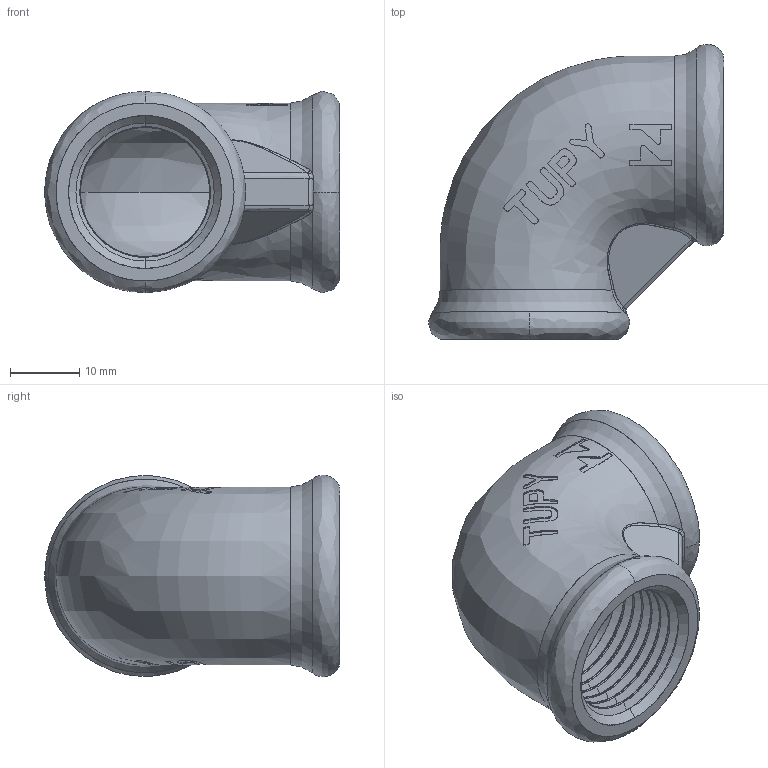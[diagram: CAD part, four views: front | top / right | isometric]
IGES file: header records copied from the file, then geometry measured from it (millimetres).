
Start section: SolidWorks IGES file using analytic representation for surfaces
Global section: file name: C:\Users\Joel Rosa\Desktop\Tubulação\12-07-OK\12-07-004.IGS; native system: SolidWorks 2011; preprocessor: SolidWorks 2011; author: Joel Rosa; date: 121204.003543; units: millimetre
Bounding box: 42.49 x 42.5 x 29 mm (x, y, z)
Surface area: 9090 mm2 (no closed solid volume)
Topology: 0 solids, 0 shells, 282 faces, 2940 edges, 2940 vertices
Faces by surface type: bspline 218, revolution 64
